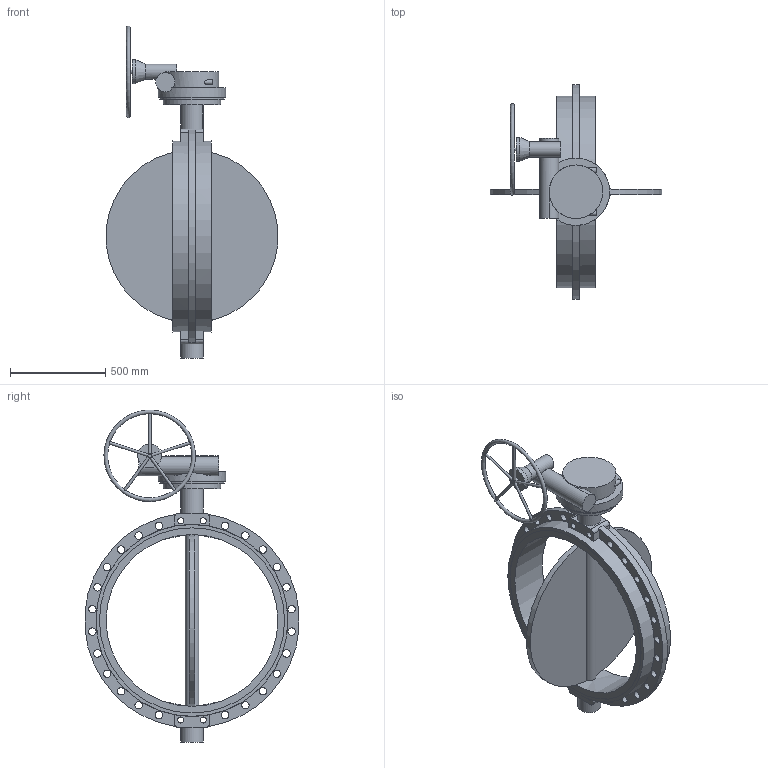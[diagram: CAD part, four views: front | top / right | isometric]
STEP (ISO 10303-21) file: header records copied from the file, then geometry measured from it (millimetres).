
FILE_DESCRIPTION(('STEP AP203'), '1');
FILE_NAME('青蜮铕 017WDN900 疱潴牝铕', '', ('UNSPECIFIED'), ('UNSPECIFIED'), 'ASCON STEP Converter 1.6', 'ASCON Math Kernel', '');
FILE_SCHEMA(('CONFIG_CONTROL_DESIGN'));
Length unit declared in the file: millimetre
Bounding box: 899.57 x 1121.08 x 1739.48 mm (x, y, z)
Volume: 79926174.6 mm3; surface area: 4158467.2 mm2
Topology: 1 solids, 1 shells, 744 faces, 2096 edges, 1394 vertices
Faces by surface type: cylinder 546, plane 196, cone 1, torus 1
Full cylindrical faces by diameter (mm): 14 x13, 18 x8, 20 x2, 25 x2, 31.67 x4, 39 x24, 80 x1, 100 x1, 120 x2, 125 x1, 280 x1, 300 x1, 340 x1, 353 x1, 900 x1, 970 x2, 1005 x2
Entity records: 33336 total; most frequent: CARTESIAN_POINT 7261, DIRECTION 4567, ORIENTED_EDGE 4046, EDGE_CURVE 2023, AXIS2_PLACEMENT_3D 1842, VERTEX_POINT 1392, CIRCLE 1098, EDGE_LOOP 921
